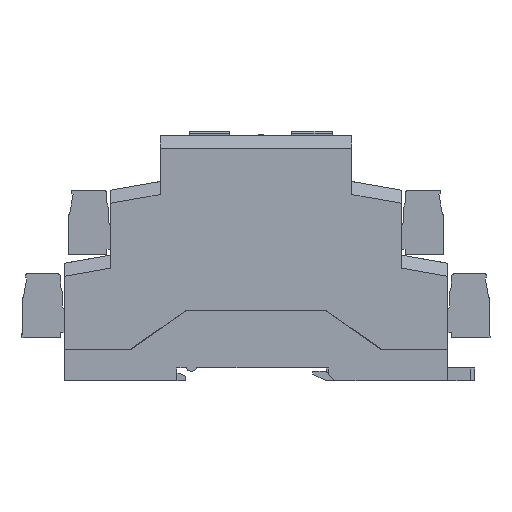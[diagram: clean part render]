
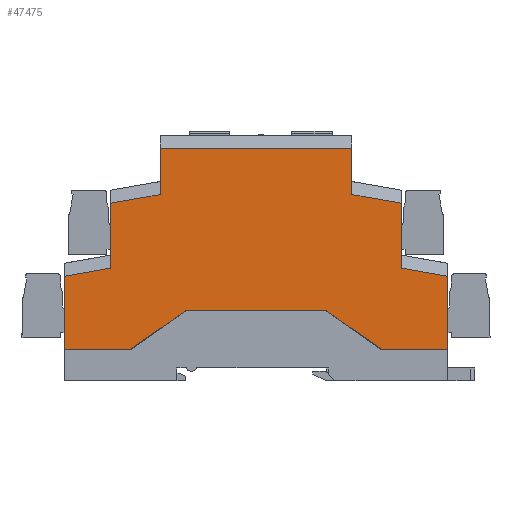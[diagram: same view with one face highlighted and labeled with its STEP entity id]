
A CAD part, left-side view. The second image highlights one B-rep face of the part: STEP entity #47475.
In plain terms, the highlighted planar face has unit normal (-1, 0, 0).
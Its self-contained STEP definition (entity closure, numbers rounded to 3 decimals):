
#1840 = LINE ( 'NONE', #169992, #34496 ) ;
#4309 = CARTESIAN_POINT ( 'NONE',  ( 0., 0., 0. ) ) ;
#5340 = CARTESIAN_POINT ( 'NONE',  ( 0., 67.35, 47.1 ) ) ;
#6284 = DIRECTION ( 'NONE',  ( 0., 0.985, 0.174 ) ) ;
#8359 = CARTESIAN_POINT ( 'NONE',  ( 0., 10.85, 34.226 ) ) ;
#10118 = LINE ( 'NONE', #125135, #108362 ) ;
#15278 = CARTESIAN_POINT ( 'NONE',  ( 0., 15.457, 0. ) ) ;
#15366 = VERTEX_POINT ( 'NONE', #119179 ) ;
#15996 = LINE ( 'NONE', #161729, #123064 ) ;
#17343 = CARTESIAN_POINT ( 'NONE',  ( 0., 28.525, 9.15 ) ) ;
#20266 = LINE ( 'NONE', #20445, #127307 ) ;
#20291 = ORIENTED_EDGE ( 'NONE', *, *, #153193, .F. ) ;
#20445 = CARTESIAN_POINT ( 'NONE',  ( 0., 74.243, 0. ) ) ;
#20876 = EDGE_CURVE ( 'NONE', #92127, #145511, #74891, .T. ) ;
#23037 = ORIENTED_EDGE ( 'NONE', *, *, #20876, .F. ) ;
#24655 = ORIENTED_EDGE ( 'NONE', *, *, #144345, .F. ) ;
#25519 = CARTESIAN_POINT ( 'NONE',  ( 0., 89.7, 17.101 ) ) ;
#25694 = VERTEX_POINT ( 'NONE', #36695 ) ;
#27046 = EDGE_CURVE ( 'NONE', #136598, #29662, #20266, .T. ) ;
#27510 = CARTESIAN_POINT ( 'NONE',  ( 0., 67.35, 47.1 ) ) ;
#29595 = VECTOR ( 'NONE', #115034, 1000. ) ;
#29662 = VERTEX_POINT ( 'NONE', #167212 ) ;
#31794 = LINE ( 'NONE', #154557, #106141 ) ;
#33103 = CARTESIAN_POINT ( 'NONE',  ( 0., 0., 0. ) ) ;
#34496 = VECTOR ( 'NONE', #58193, 1000. ) ;
#34569 = EDGE_CURVE ( 'NONE', #55978, #145511, #130192, .T. ) ;
#36190 = CARTESIAN_POINT ( 'NONE',  ( 0., 0., 17.101 ) ) ;
#36695 = CARTESIAN_POINT ( 'NONE',  ( 0., 67.35, 36.254 ) ) ;
#37410 = DIRECTION ( 'NONE',  ( 0., 0.985, 0.174 ) ) ;
#41636 = DIRECTION ( 'NONE',  ( 0., 1., 0. ) ) ;
#46917 = CARTESIAN_POINT ( 'NONE',  ( 0., 28.525, 9.15 ) ) ;
#47013 = ORIENTED_EDGE ( 'NONE', *, *, #116406, .F. ) ;
#47475 = ADVANCED_FACE ( 'NONE', ( #104742 ), #158349, .T. ) ;
#47622 = LINE ( 'NONE', #124417, #117531 ) ;
#49390 = CARTESIAN_POINT ( 'NONE',  ( 0., 67.35, 39.3 ) ) ;
#50688 = LINE ( 'NONE', #27510, #153437 ) ;
#52118 = VECTOR ( 'NONE', #157601, 1000. ) ;
#53044 = CARTESIAN_POINT ( 'NONE',  ( 0., 61.175, 9.15 ) ) ;
#54810 = LINE ( 'NONE', #49390, #87546 ) ;
#55500 = DIRECTION ( 'NONE',  ( 0., 0.985, -0.174 ) ) ;
#55978 = VERTEX_POINT ( 'NONE', #36190 ) ;
#56545 = CARTESIAN_POINT ( 'NONE',  ( 0., 22.35, 47.1 ) ) ;
#58193 = DIRECTION ( 'NONE',  ( 0., 0.985, -0.174 ) ) ;
#58916 = ORIENTED_EDGE ( 'NONE', *, *, #155850, .F. ) ;
#58917 = VECTOR ( 'NONE', #87113, 1000. ) ;
#59068 = CARTESIAN_POINT ( 'NONE',  ( 0., 74.243, 0. ) ) ;
#61182 = DIRECTION ( 'NONE',  ( 0., 0., 1. ) ) ;
#61199 = CARTESIAN_POINT ( 'NONE',  ( 0., 10.85, 19.014 ) ) ;
#61577 = EDGE_CURVE ( 'NONE', #171161, #84164, #47622, .T. ) ;
#70820 = DIRECTION ( 'NONE',  ( 0., 1., 0. ) ) ;
#72191 = CARTESIAN_POINT ( 'NONE',  ( 0., 10.85, 37.272 ) ) ;
#74891 = LINE ( 'NONE', #72191, #107638 ) ;
#76186 = VERTEX_POINT ( 'NONE', #25519 ) ;
#77965 = EDGE_CURVE ( 'NONE', #15366, #76186, #1840, .T. ) ;
#78021 = DIRECTION ( 'NONE',  ( 0., 0., 1. ) ) ;
#78911 = CARTESIAN_POINT ( 'NONE',  ( 0., 11.371, 19.106 ) ) ;
#79994 = EDGE_CURVE ( 'NONE', #55978, #108079, #92011, .T. ) ;
#80718 = EDGE_CURVE ( 'NONE', #92127, #84164, #89577, .T. ) ;
#81510 = EDGE_CURVE ( 'NONE', #25694, #130654, #10118, .T. ) ;
#82244 = DIRECTION ( 'NONE',  ( 0., 0., -1. ) ) ;
#83089 = VERTEX_POINT ( 'NONE', #53044 ) ;
#84164 = VERTEX_POINT ( 'NONE', #100479 ) ;
#84632 = CARTESIAN_POINT ( 'NONE',  ( 0., 0., 20.147 ) ) ;
#86805 = DIRECTION ( 'NONE',  ( 0., 0., -1. ) ) ;
#87113 = DIRECTION ( 'NONE',  ( 0., 0.819, -0.574 ) ) ;
#87546 = VECTOR ( 'NONE', #148447, 1000. ) ;
#89577 = LINE ( 'NONE', #103865, #126732 ) ;
#89822 = EDGE_CURVE ( 'NONE', #116253, #83089, #31794, .T. ) ;
#92011 = LINE ( 'NONE', #84632, #129184 ) ;
#92127 = VERTEX_POINT ( 'NONE', #8359 ) ;
#93006 = CARTESIAN_POINT ( 'NONE',  ( 0., 0., 0. ) ) ;
#95121 = CARTESIAN_POINT ( 'NONE',  ( 0., 74.243, 0. ) ) ;
#96077 = LINE ( 'NONE', #59068, #58917 ) ;
#97710 = EDGE_CURVE ( 'NONE', #83089, #136598, #96077, .T. ) ;
#99442 = ORIENTED_EDGE ( 'NONE', *, *, #80718, .T. ) ;
#100479 = CARTESIAN_POINT ( 'NONE',  ( 0., 22.35, 36.254 ) ) ;
#100841 = ORIENTED_EDGE ( 'NONE', *, *, #27046, .F. ) ;
#103865 = CARTESIAN_POINT ( 'NONE',  ( 0., 22.871, 36.346 ) ) ;
#104742 = FACE_OUTER_BOUND ( 'NONE', #170639, .T. ) ;
#106141 = VECTOR ( 'NONE', #70820, 1000. ) ;
#106342 = ORIENTED_EDGE ( 'NONE', *, *, #154383, .T. ) ;
#107638 = VECTOR ( 'NONE', #86805, 1000. ) ;
#108079 = VERTEX_POINT ( 'NONE', #4309 ) ;
#108110 = ORIENTED_EDGE ( 'NONE', *, *, #89822, .F. ) ;
#108362 = VECTOR ( 'NONE', #55500, 1000. ) ;
#111816 = ORIENTED_EDGE ( 'NONE', *, *, #79994, .F. ) ;
#113666 = ORIENTED_EDGE ( 'NONE', *, *, #97710, .F. ) ;
#115034 = DIRECTION ( 'NONE',  ( 0., 0.819, 0.574 ) ) ;
#116253 = VERTEX_POINT ( 'NONE', #46917 ) ;
#116406 = EDGE_CURVE ( 'NONE', #29662, #76186, #15996, .T. ) ;
#117531 = VECTOR ( 'NONE', #82244, 1000. ) ;
#119179 = CARTESIAN_POINT ( 'NONE',  ( 0., 78.85, 19.014 ) ) ;
#121064 = DIRECTION ( 'NONE',  ( 0., 1., 0. ) ) ;
#123064 = VECTOR ( 'NONE', #78021, 1000. ) ;
#124417 = CARTESIAN_POINT ( 'NONE',  ( 0., 22.35, 50.1 ) ) ;
#125135 = CARTESIAN_POINT ( 'NONE',  ( 0., 78.329, 34.318 ) ) ;
#126390 = EDGE_CURVE ( 'NONE', #25694, #162284, #54810, .T. ) ;
#126732 = VECTOR ( 'NONE', #6284, 1000. ) ;
#127307 = VECTOR ( 'NONE', #148764, 1000. ) ;
#129184 = VECTOR ( 'NONE', #168414, 1000. ) ;
#130192 = LINE ( 'NONE', #78911, #162992 ) ;
#130654 = VERTEX_POINT ( 'NONE', #163793 ) ;
#136598 = VERTEX_POINT ( 'NONE', #95121 ) ;
#143481 = ORIENTED_EDGE ( 'NONE', *, *, #126390, .F. ) ;
#143599 = CARTESIAN_POINT ( 'NONE',  ( 0., 78.85, 22.06 ) ) ;
#144345 = EDGE_CURVE ( 'NONE', #15366, #130654, #163658, .T. ) ;
#144998 = DIRECTION ( 'NONE',  ( -1., 0., 0. ) ) ;
#145511 = VERTEX_POINT ( 'NONE', #61199 ) ;
#148114 = AXIS2_PLACEMENT_3D ( 'NONE', #33103, #144998, #61182 ) ;
#148447 = DIRECTION ( 'NONE',  ( 0., 0., 1. ) ) ;
#148764 = DIRECTION ( 'NONE',  ( 0., 1., 0. ) ) ;
#150203 = LINE ( 'NONE', #93006, #154540 ) ;
#153193 = EDGE_CURVE ( 'NONE', #163288, #116253, #169533, .T. ) ;
#153437 = VECTOR ( 'NONE', #41636, 1000. ) ;
#154383 = EDGE_CURVE ( 'NONE', #171161, #162284, #50688, .T. ) ;
#154540 = VECTOR ( 'NONE', #121064, 1000. ) ;
#154557 = CARTESIAN_POINT ( 'NONE',  ( 0., 61.175, 9.15 ) ) ;
#155850 = EDGE_CURVE ( 'NONE', #108079, #163288, #150203, .T. ) ;
#157601 = DIRECTION ( 'NONE',  ( 0., 0., 1. ) ) ;
#158349 = PLANE ( 'NONE',  #148114 ) ;
#159740 = ORIENTED_EDGE ( 'NONE', *, *, #34569, .T. ) ;
#161729 = CARTESIAN_POINT ( 'NONE',  ( 0., 89.7, 0. ) ) ;
#162284 = VERTEX_POINT ( 'NONE', #5340 ) ;
#162992 = VECTOR ( 'NONE', #37410, 1000. ) ;
#163288 = VERTEX_POINT ( 'NONE', #15278 ) ;
#163658 = LINE ( 'NONE', #143599, #52118 ) ;
#163793 = CARTESIAN_POINT ( 'NONE',  ( 0., 78.85, 34.226 ) ) ;
#167212 = CARTESIAN_POINT ( 'NONE',  ( 0., 89.7, 0. ) ) ;
#168414 = DIRECTION ( 'NONE',  ( 0., 0., -1. ) ) ;
#169533 = LINE ( 'NONE', #17343, #29595 ) ;
#169992 = CARTESIAN_POINT ( 'NONE',  ( 0., 89.179, 17.192 ) ) ;
#170314 = ORIENTED_EDGE ( 'NONE', *, *, #81510, .T. ) ;
#170639 = EDGE_LOOP ( 'NONE', ( #24655, #174832, #47013, #100841, #113666, #108110, #20291, #58916, #111816, #159740, #23037, #99442, #178599, #106342, #143481, #170314 ) ) ;
#171161 = VERTEX_POINT ( 'NONE', #56545 ) ;
#174832 = ORIENTED_EDGE ( 'NONE', *, *, #77965, .T. ) ;
#178599 = ORIENTED_EDGE ( 'NONE', *, *, #61577, .F. ) ;
